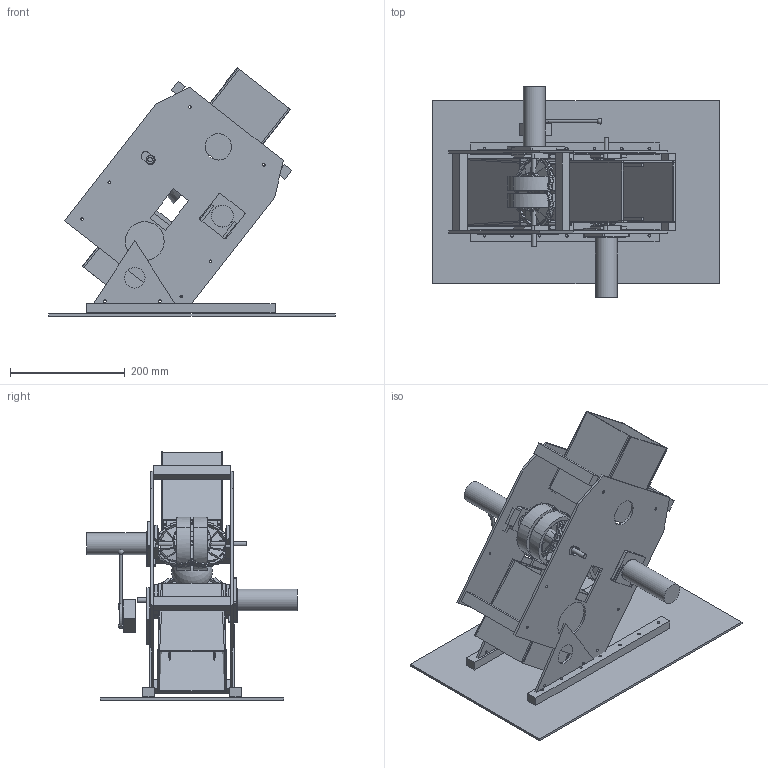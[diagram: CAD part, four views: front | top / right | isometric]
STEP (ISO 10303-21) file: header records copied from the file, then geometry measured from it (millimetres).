
FILE_DESCRIPTION(('Open CASCADE Model'),'2;1');
FILE_NAME('Open CASCADE Shape Model','2026-09-20T18:15:59',('Author'),( 'Open CASCADE'),'Open CASCADE STEP processor 7.8','Open CASCADE 7.8' ,'Unknown');
FILE_SCHEMA(('AUTOMOTIVE_DESIGN { 1 0 10303 214 1 1 1 1 }'));
Length unit declared in the file: millimetre
Products named in the file (58): biobuzz_launcher_pollen; 00_chassis_xy_reference; base_rail_-1; angle_gusset_-1; base_rail_+1; angle_gusset_+1; main_side_plate_-1; main_side_plate_+1; crossmember_-162_-118; crossmember_-162_118; crossmember_128_-118; crossmember_128_118; slide_rail_-1_-1; carriage_-1_-1; slide_rail_-1_+1; carriage_-1_+1; slide_rail_+1_-1; carriage_+1_-1; slide_rail_+1_+1; carriage_+1_+1; shaft_upper; gecko_upper_1; gecko_upper_2; bearing_collar_upper_-1; bearing_collar_upper_+1; motor_mount_upper; motor_envelope_upper; shaft_lower; gecko_lower_1; gecko_lower_2; bearing_collar_lower_-1; bearing_collar_lower_+1; motor_mount_lower; motor_envelope_lower; servo_bracket; servo_envelope; servo_double_horn; link_rod_upper; link_ball_upper_servo; link_ball_upper_carriage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
Assembly tree (57 placements, depth 2):
  biobuzz_launcher_pollen
    00_chassis_xy_reference
    base_rail_-1
    angle_gusset_-1
    base_rail_+1
    angle_gusset_+1
    main_side_plate_-1
    main_side_plate_+1
    crossmember_-162_-118
    crossmember_-162_118
    crossmember_128_-118
    crossmember_128_118
    slide_rail_-1_-1
    carriage_-1_-1
    slide_rail_-1_+1
    carriage_-1_+1
    slide_rail_+1_-1
    carriage_+1_-1
    slide_rail_+1_+1
    carriage_+1_+1
    shaft_upper
    gecko_upper_1
    gecko_upper_2
    bearing_collar_upper_-1
    bearing_collar_upper_+1
    motor_mount_upper
    motor_envelope_upper
    shaft_lower
    gecko_lower_1
    gecko_lower_2
    bearing_collar_lower_-1
    bearing_collar_lower_+1
    motor_mount_lower
    motor_envelope_lower
    servo_bracket
    servo_envelope
    servo_double_horn
    link_rod_upper
    link_ball_upper_servo
    link_ball_upper_carriage
    link_rod_lower
    link_ball_lower_servo
    link_ball_lower_carriage
    input_sidewall_-1
    input_sidewall_+1
    input_floor
    input_roof
    centering_leaf_-1
    centering_leaf_+1
    output_floor
    output_roof
    output_sidewall_-1
    output_sidewall_+1
    wear_strip_-50_-47
    wear_strip_-50_47
    wear_strip_50_-47
    wear_strip_50_47
    pollen_reference_ball
Bounding box: 500 x 368 x 433.69 mm (x, y, z)
Volume: 3018936.9 mm3; surface area: 1368065.2 mm2
Topology: 57 solids, 57 shells, 1558 faces, 4483 edges, 2986 vertices
Faces by surface type: plane 1407, cylinder 146, sphere 5
Full cylindrical faces by diameter (mm): 4.4 x12, 4.6 x30, 6 x3, 8 x2, 14.2 x12, 22 x4, 36 x2, 38 x2, 38.4 x2, 44 x1, 46 x2, 68 x2
Entity records: 111629 total; most frequent: CARTESIAN_POINT 19948, DIRECTION 16916, LINE 11975, VECTOR 11975, ORIENTED_EDGE 8956, PCURVE 8956, DEFINITIONAL_REPRESENTATION 8956, EDGE_CURVE 4478
